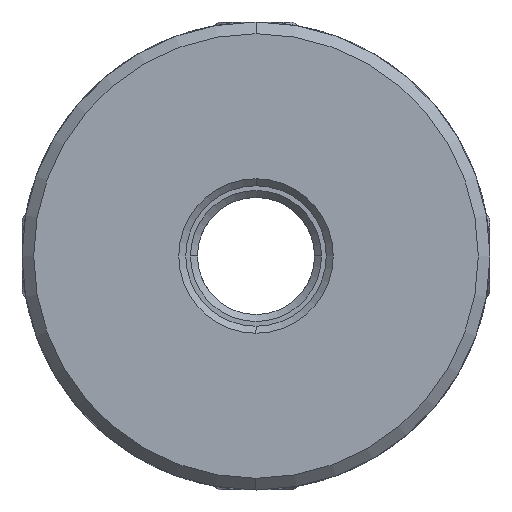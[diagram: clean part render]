
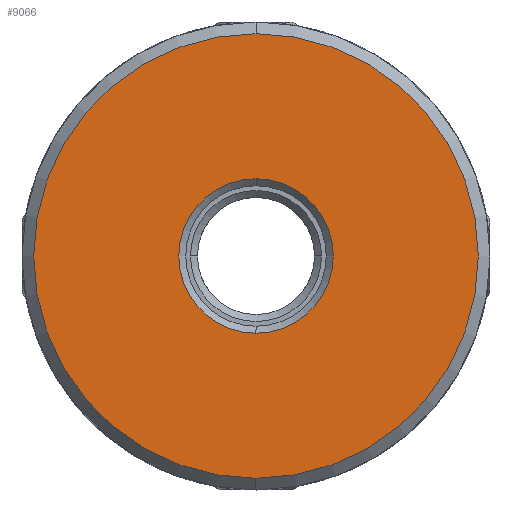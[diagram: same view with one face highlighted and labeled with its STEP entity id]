
A CAD part, front view. The second image highlights one B-rep face of the part: STEP entity #9066.
In plain terms, the highlighted planar face has unit normal (0, -1, 0).
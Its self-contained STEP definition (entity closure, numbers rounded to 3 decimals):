
#380 = AXIS2_PLACEMENT_3D ( 'NONE', #538, #1631, #2285 ) ;
#538 = CARTESIAN_POINT ( 'NONE',  ( 0., -23., 0. ) ) ;
#1482 = VERTEX_POINT ( 'NONE', #9336 ) ;
#1506 = CARTESIAN_POINT ( 'NONE',  ( 0., -23., 9.5 ) ) ;
#1631 = DIRECTION ( 'NONE',  ( 0., -1., 0. ) ) ;
#1832 = AXIS2_PLACEMENT_3D ( 'NONE', #4691, #3889, #9188 ) ;
#1869 = ORIENTED_EDGE ( 'NONE', *, *, #8263, .T. ) ;
#2073 = VERTEX_POINT ( 'NONE', #2667 ) ;
#2285 = DIRECTION ( 'NONE',  ( 0., 0., -1. ) ) ;
#2644 = CIRCLE ( 'NONE', #4573, 3.3 ) ;
#2667 = CARTESIAN_POINT ( 'NONE',  ( 0., -23., -9.5 ) ) ;
#2700 = CARTESIAN_POINT ( 'NONE',  ( 0., -23., 0. ) ) ;
#2811 = EDGE_CURVE ( 'NONE', #1482, #3257, #2644, .T. ) ;
#3209 = CIRCLE ( 'NONE', #380, 9.5 ) ;
#3257 = VERTEX_POINT ( 'NONE', #7342 ) ;
#3453 = CARTESIAN_POINT ( 'NONE',  ( 50., -23., -15.365 ) ) ;
#3479 = DIRECTION ( 'NONE',  ( 0., -1., 0. ) ) ;
#3889 = DIRECTION ( 'NONE',  ( 0., 1., 0. ) ) ;
#4573 = AXIS2_PLACEMENT_3D ( 'NONE', #2700, #6364, #4836 ) ;
#4668 = EDGE_LOOP ( 'NONE', ( #8008, #1869 ) ) ;
#4691 = CARTESIAN_POINT ( 'NONE',  ( 0., -23., 0. ) ) ;
#4826 = DIRECTION ( 'NONE',  ( 0., 0., -1. ) ) ;
#4836 = DIRECTION ( 'NONE',  ( 0., 0., -1. ) ) ;
#5011 = DIRECTION ( 'NONE',  ( 0., 0., -1. ) ) ;
#5217 = AXIS2_PLACEMENT_3D ( 'NONE', #7177, #3479, #4826 ) ;
#5742 = DIRECTION ( 'NONE',  ( 0., 1., 0. ) ) ;
#6216 = EDGE_LOOP ( 'NONE', ( #6738, #9378 ) ) ;
#6364 = DIRECTION ( 'NONE',  ( 0., 1., 0. ) ) ;
#6470 = FACE_BOUND ( 'NONE', #6216, .T. ) ;
#6697 = CIRCLE ( 'NONE', #5217, 9.5 ) ;
#6738 = ORIENTED_EDGE ( 'NONE', *, *, #2811, .T. ) ;
#7177 = CARTESIAN_POINT ( 'NONE',  ( 0., -23., 0. ) ) ;
#7342 = CARTESIAN_POINT ( 'NONE',  ( 0., -23., -3.3 ) ) ;
#7734 = EDGE_CURVE ( 'NONE', #3257, #1482, #9591, .T. ) ;
#8008 = ORIENTED_EDGE ( 'NONE', *, *, #9176, .T. ) ;
#8263 = EDGE_CURVE ( 'NONE', #9601, #2073, #3209, .T. ) ;
#8602 = FACE_OUTER_BOUND ( 'NONE', #4668, .T. ) ;
#9051 = AXIS2_PLACEMENT_3D ( 'NONE', #3453, #5742, #5011 ) ;
#9066 = ADVANCED_FACE ( 'NONE', ( #6470, #8602 ), #9529, .F. ) ;
#9176 = EDGE_CURVE ( 'NONE', #2073, #9601, #6697, .T. ) ;
#9188 = DIRECTION ( 'NONE',  ( 0., 0., -1. ) ) ;
#9336 = CARTESIAN_POINT ( 'NONE',  ( 0., -23., 3.3 ) ) ;
#9378 = ORIENTED_EDGE ( 'NONE', *, *, #7734, .T. ) ;
#9529 = PLANE ( 'NONE',  #9051 ) ;
#9591 = CIRCLE ( 'NONE', #1832, 3.3 ) ;
#9601 = VERTEX_POINT ( 'NONE', #1506 ) ;
